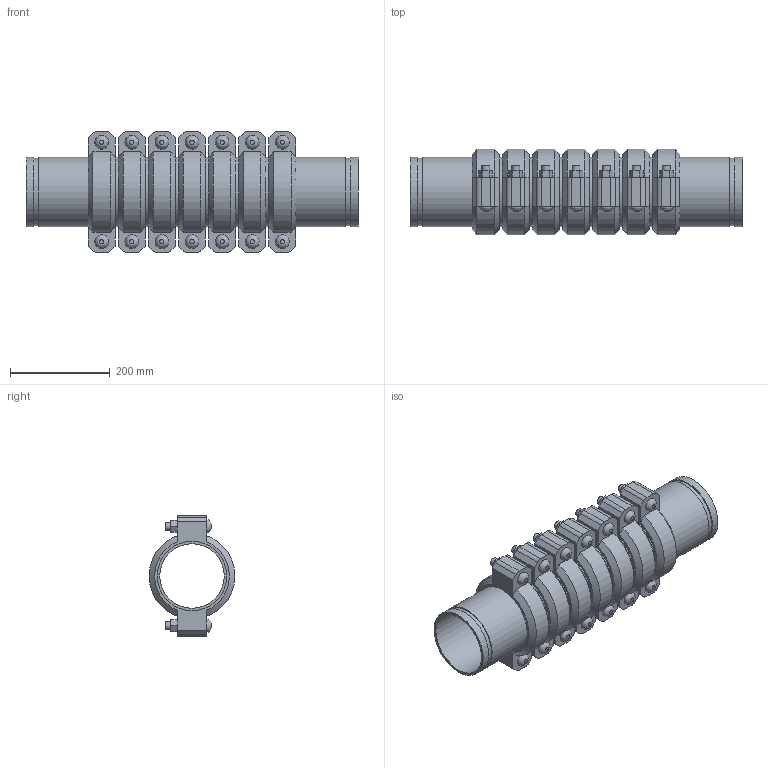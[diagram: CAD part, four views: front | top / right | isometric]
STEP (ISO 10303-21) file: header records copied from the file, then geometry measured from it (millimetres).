
FILE_DESCRIPTION(/* description */ ('VIC EXPANSION JOINT 7 COUPLINGS COMPRESSED STYLE 155 (OGS)','CAx-IF Rec.Pracs.---Representation and Presentation of Product Manufacturing Information (PMI)---4.0---2014-10-13'),/* implementation_level */ '2;1');
FILE_NAME(/* name */ 'C:\Users\kkamble\AppData\Roaming\Autodesk\ApplicationPlugins\Victaulic.Temp\A262\Victaulic_IPS_Expansion Joint_Compressed_7 Couplings_Style 155 (OGS)_05.0 (139.7) (125).stp',/* time_stamp */ '2021-06-27T00:34:11+02:00',/* author */ ('kkamble'),/* organization */ ('Victaulic'),/* preprocessor_version */ 'ST-DEVELOPER v17.2',/* originating_system */ 'Autodesk Inventor 2019',/* authorisation */ '');
FILE_SCHEMA (('AP242_MANAGED_MODEL_BASED_3D_ENGINEERING_MIM_LF { 1 0 10303 442 1 1 4 }'));
Length unit declared in the file: inch
Products named in the file (4): 155-05.0 (139.7); Nipple-05.0 (139.7); Nipple-05.0 (139.7)_1; 075_7_Coup05.0 (139.7)
Assembly tree (15 placements, depth 2):
  155-05.0 (139.7)
    Nipple-05.0 (139.7)  x2
    Nipple-05.0 (139.7)_1  x6
    075_7_Coup05.0 (139.7)  x7
Bounding box: 666.75 x 172.14 x 243.59 mm (x, y, z)
Volume: 5725684.5 mm3; surface area: 1311608.9 mm2
Topology: 15 solids, 29 shells, 495 faces, 1171 edges, 822 vertices
Faces by surface type: plane 300, cylinder 153, cone 28, bspline 14
Full cylindrical faces by diameter (mm): 15.875 x28, 17.424 x14, 129.388 x8, 133.35 x7, 135.484 x16, 139.7 x38
Entity records: 2842 total; most frequent: CARTESIAN_POINT 499, DIRECTION 473, ORIENTED_EDGE 386, EDGE_CURVE 193, AXIS2_PLACEMENT_3D 190, VERTEX_POINT 138, EDGE_LOOP 107, LINE 93
